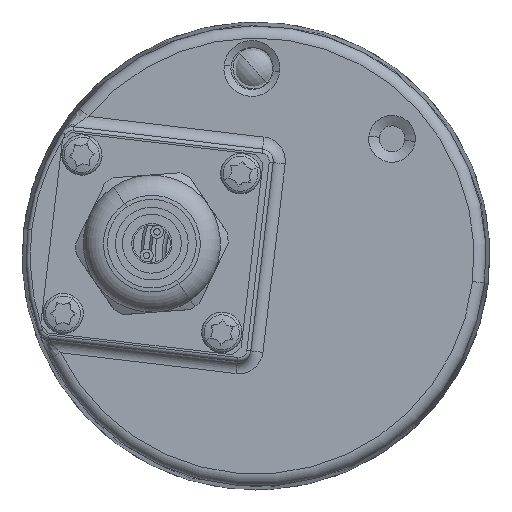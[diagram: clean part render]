
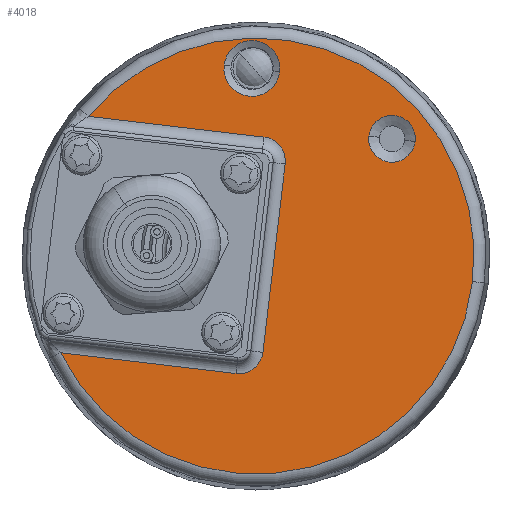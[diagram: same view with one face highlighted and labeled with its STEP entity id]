
A CAD part, left-side view. The second image highlights one B-rep face of the part: STEP entity #4018.
In plain terms, the highlighted planar face has unit normal (-1, 0, 0).
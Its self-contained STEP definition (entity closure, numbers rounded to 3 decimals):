
#3535 = VERTEX_POINT ( 'NONE', #9364 ) ;
#3537 = EDGE_CURVE ( 'NONE', #3539, #3535, #9363, .T. ) ;
#3539 = VERTEX_POINT ( 'NONE', #9357 ) ;
#3552 = VERTEX_POINT ( 'NONE', #9380 ) ;
#3554 = EDGE_CURVE ( 'NONE', #3555, #3552, #9379, .T. ) ;
#3555 = VERTEX_POINT ( 'NONE', #9374 ) ;
#3593 = EDGE_CURVE ( 'NONE', #3595, #3597, #9595, .T. ) ;
#3595 = VERTEX_POINT ( 'NONE', #9591 ) ;
#3597 = VERTEX_POINT ( 'NONE', #9586 ) ;
#3647 = VERTEX_POINT ( 'NONE', #9737 ) ;
#3653 = VERTEX_POINT ( 'NONE', #9730 ) ;
#3660 = VERTEX_POINT ( 'NONE', #9717 ) ;
#3662 = EDGE_CURVE ( 'NONE', #3660, #3653, #9715, .T. ) ;
#3670 = VERTEX_POINT ( 'NONE', #9794 ) ;
#3687 = EDGE_CURVE ( 'NONE', #3597, #3647, #9842, .T. ) ;
#3702 = EDGE_CURVE ( 'NONE', #3670, #3647, #9941, .T. ) ;
#3721 = EDGE_CURVE ( 'NONE', #3670, #3653, #9983, .T. ) ;
#3763 = EDGE_CURVE ( 'NONE', #3764, #3595, #10614, .T. ) ;
#3764 = VERTEX_POINT ( 'NONE', #10605 ) ;
#4016 = EDGE_CURVE ( 'NONE', #3535, #3539, #11419, .T. ) ;
#4018 = ADVANCED_FACE ( 'NONE', ( #11413, #11412, #11411 ), #11452, .F. ) ;
#4020 = EDGE_LOOP ( 'NONE', ( #4067, #4069 ) ) ;
#4022 = EDGE_CURVE ( 'NONE', #3660, #3764, #11446, .T. ) ;
#4051 = ORIENTED_EDGE ( 'NONE', *, *, #3721, .T. ) ;
#4052 = ORIENTED_EDGE ( 'NONE', *, *, #3662, .F. ) ;
#4067 = ORIENTED_EDGE ( 'NONE', *, *, #3537, .T. ) ;
#4069 = ORIENTED_EDGE ( 'NONE', *, *, #4016, .T. ) ;
#4070 = EDGE_LOOP ( 'NONE', ( #4071, #4072 ) ) ;
#4071 = ORIENTED_EDGE ( 'NONE', *, *, #3554, .T. ) ;
#4072 = ORIENTED_EDGE ( 'NONE', *, *, #4073, .T. ) ;
#4073 = EDGE_CURVE ( 'NONE', #3552, #3555, #11612, .T. ) ;
#4074 = EDGE_LOOP ( 'NONE', ( #4075, #4076, #4077, #4078, #4079, #4051, #4052 ) ) ;
#4075 = ORIENTED_EDGE ( 'NONE', *, *, #4022, .T. ) ;
#4076 = ORIENTED_EDGE ( 'NONE', *, *, #3763, .T. ) ;
#4077 = ORIENTED_EDGE ( 'NONE', *, *, #3593, .T. ) ;
#4078 = ORIENTED_EDGE ( 'NONE', *, *, #3687, .T. ) ;
#4079 = ORIENTED_EDGE ( 'NONE', *, *, #3702, .F. ) ;
#9357 = CARTESIAN_POINT ( 'NONE',  ( -30.5, -13.977, 14.865 ) ) ;
#9359 = DIRECTION ( 'NONE',  ( 0., -0.993, -0.118 ) ) ;
#9360 = DIRECTION ( 'NONE',  ( 1., 0., 0. ) ) ;
#9361 = CARTESIAN_POINT ( 'NONE',  ( -30.5, -16.856, 14.524 ) ) ;
#9362 = AXIS2_PLACEMENT_3D ( 'NONE', #9361, #9360, #9359 ) ;
#9363 = CIRCLE ( 'NONE', #9362, 2.899 ) ;
#9364 = CARTESIAN_POINT ( 'NONE',  ( -30.5, -19.735, 14.183 ) ) ;
#9374 = CARTESIAN_POINT ( 'NONE',  ( -30.5, 3.949, 23.652 ) ) ;
#9375 = DIRECTION ( 'NONE',  ( 0., -0.993, -0.118 ) ) ;
#9376 = DIRECTION ( 'NONE',  ( 1., 0., 0. ) ) ;
#9377 = CARTESIAN_POINT ( 'NONE',  ( -30.5, 0.507, 23.244 ) ) ;
#9378 = AXIS2_PLACEMENT_3D ( 'NONE', #9377, #9376, #9375 ) ;
#9379 = CIRCLE ( 'NONE', #9378, 3.466 ) ;
#9380 = CARTESIAN_POINT ( 'NONE',  ( -30.5, -2.935, 22.837 ) ) ;
#9537 = CARTESIAN_POINT ( 'NONE',  ( -30.5, 0., 0. ) ) ;
#9586 = CARTESIAN_POINT ( 'NONE',  ( -30.5, 20.751, 17.309 ) ) ;
#9591 = CARTESIAN_POINT ( 'NONE',  ( -30.5, -26.835, -3.176 ) ) ;
#9592 = DIRECTION ( 'NONE',  ( 0., -0.993, -0.118 ) ) ;
#9593 = DIRECTION ( 'NONE',  ( -1., 0., 0. ) ) ;
#9594 = AXIS2_PLACEMENT_3D ( 'NONE', #9537, #9593, #9592 ) ;
#9595 = CIRCLE ( 'NONE', #9594, 27.022 ) ;
#9711 = DIRECTION ( 'NONE',  ( 0., -0.993, -0.118 ) ) ;
#9712 = DIRECTION ( 'NONE',  ( -1., 0., 0. ) ) ;
#9713 = CARTESIAN_POINT ( 'NONE',  ( -30.5, 2.126, -11.58 ) ) ;
#9714 = AXIS2_PLACEMENT_3D ( 'NONE', #9713, #9712, #9711 ) ;
#9715 = CIRCLE ( 'NONE', #9714, 3. ) ;
#9717 = CARTESIAN_POINT ( 'NONE',  ( -30.5, 2.478, -14.56 ) ) ;
#9730 = CARTESIAN_POINT ( 'NONE',  ( -30.5, -0.853, -11.933 ) ) ;
#9737 = CARTESIAN_POINT ( 'NONE',  ( -30.5, -0.989, 14.736 ) ) ;
#9794 = CARTESIAN_POINT ( 'NONE',  ( -30.5, -3.615, 11.404 ) ) ;
#9839 = DIRECTION ( 'NONE',  ( 0., -0.993, -0.118 ) ) ;
#9840 = VECTOR ( 'NONE', #9839, 1000. ) ;
#9841 = CARTESIAN_POINT ( 'NONE',  ( -30.5, -2.478, 14.56 ) ) ;
#9842 = LINE ( 'NONE', #9841, #9840 ) ;
#9937 = DIRECTION ( 'NONE',  ( 0., -0.993, -0.118 ) ) ;
#9938 = DIRECTION ( 'NONE',  ( -1., 0., 0. ) ) ;
#9939 = CARTESIAN_POINT ( 'NONE',  ( -30.5, -0.636, 11.757 ) ) ;
#9940 = AXIS2_PLACEMENT_3D ( 'NONE', #9939, #9938, #9937 ) ;
#9941 = CIRCLE ( 'NONE', #9940, 3. ) ;
#9980 = DIRECTION ( 'NONE',  ( 0., 0.118, -0.993 ) ) ;
#9981 = VECTOR ( 'NONE', #9980, 1000. ) ;
#9982 = CARTESIAN_POINT ( 'NONE',  ( -30.5, -0.677, -13.423 ) ) ;
#9983 = LINE ( 'NONE', #9982, #9981 ) ;
#10605 = CARTESIAN_POINT ( 'NONE',  ( -30.5, 24.218, -11.987 ) ) ;
#10606 = DIRECTION ( 'NONE',  ( 0., -0.993, -0.118 ) ) ;
#10607 = DIRECTION ( 'NONE',  ( -1., 0., 0. ) ) ;
#10608 = CARTESIAN_POINT ( 'NONE',  ( -30.5, 0., 0. ) ) ;
#10609 = AXIS2_PLACEMENT_3D ( 'NONE', #10608, #10607, #10606 ) ;
#10614 = CIRCLE ( 'NONE', #10609, 27.022 ) ;
#11411 = FACE_OUTER_BOUND ( 'NONE', #4074, .T. ) ;
#11412 = FACE_BOUND ( 'NONE', #4070, .T. ) ;
#11413 = FACE_BOUND ( 'NONE', #4020, .T. ) ;
#11415 = DIRECTION ( 'NONE',  ( 0., -0.993, -0.118 ) ) ;
#11416 = DIRECTION ( 'NONE',  ( 1., 0., 0. ) ) ;
#11417 = CARTESIAN_POINT ( 'NONE',  ( -30.5, -16.856, 14.524 ) ) ;
#11418 = AXIS2_PLACEMENT_3D ( 'NONE', #11417, #11416, #11415 ) ;
#11419 = CIRCLE ( 'NONE', #11418, 2.899 ) ;
#11443 = DIRECTION ( 'NONE',  ( 0., 0.993, 0.118 ) ) ;
#11444 = VECTOR ( 'NONE', #11443, 1000. ) ;
#11445 = CARTESIAN_POINT ( 'NONE',  ( -30.5, 26.794, -11.682 ) ) ;
#11446 = LINE ( 'NONE', #11445, #11444 ) ;
#11448 = DIRECTION ( 'NONE',  ( 0., -0.993, -0.118 ) ) ;
#11449 = DIRECTION ( 'NONE',  ( 1., 0., 0. ) ) ;
#11450 = CARTESIAN_POINT ( 'NONE',  ( -30.5, 0., 0. ) ) ;
#11451 = AXIS2_PLACEMENT_3D ( 'NONE', #11450, #11449, #11448 ) ;
#11452 = PLANE ( 'NONE',  #11451 ) ;
#11608 = DIRECTION ( 'NONE',  ( 0., -0.993, -0.118 ) ) ;
#11609 = DIRECTION ( 'NONE',  ( 1., 0., 0. ) ) ;
#11610 = CARTESIAN_POINT ( 'NONE',  ( -30.5, 0.507, 23.244 ) ) ;
#11611 = AXIS2_PLACEMENT_3D ( 'NONE', #11610, #11609, #11608 ) ;
#11612 = CIRCLE ( 'NONE', #11611, 3.466 ) ;
